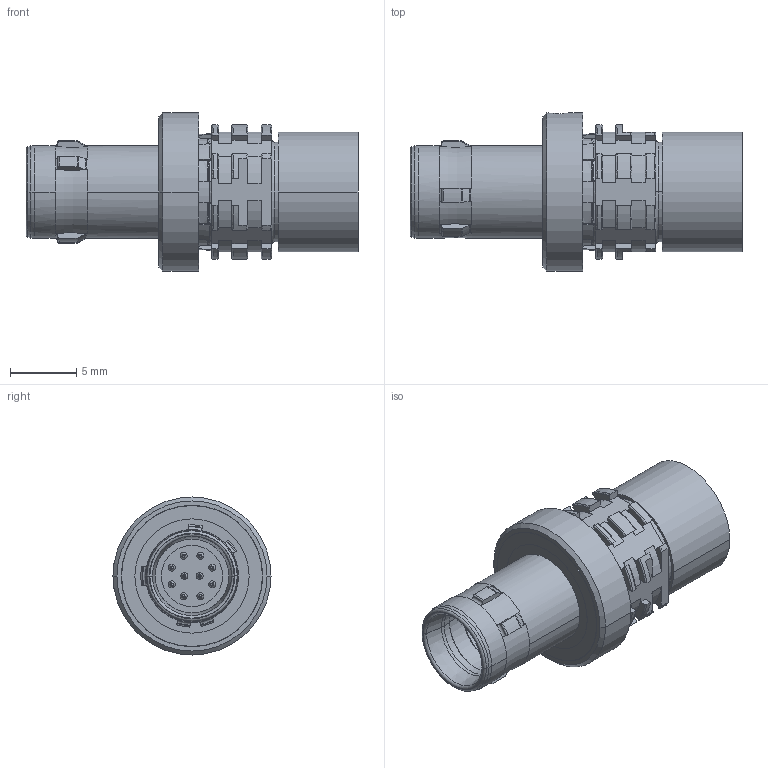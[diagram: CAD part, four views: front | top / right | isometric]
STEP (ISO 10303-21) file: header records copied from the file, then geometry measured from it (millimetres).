
FILE_DESCRIPTION((''),'2;1');
FILE_NAME('00050226_SW0001','2016-09-05T',('cmeindl'),(''),'PRO/ENGINEER BY PARAMETRIC TECHNOLOGY CORPORATION, 2014200','PRO/ENGINEER BY PARAMETRIC TECHNOLOGY CORPORATION, 2014200','');
FILE_SCHEMA(('AUTOMOTIVE_DESIGN { 1 0 10303 214 1 1 1 1 }'));
Length unit declared in the file: millimetre
Products named in the file (1): 00050226_SW0001
Bounding box: 25 x 11.9 x 11.9 mm (x, y, z)
Volume: 1006.5 mm3; surface area: 2301.6 mm2
Topology: 2 solids, 2 shells, 780 faces, 2034 edges, 1270 vertices
Faces by surface type: cylinder 275, plane 241, torus 133, cone 91, bspline 20, sphere 20
Entity records: 35725 total; most frequent: CARTESIAN_POINT 10935, DIRECTION 4065, ORIENTED_EDGE 3988, EDGE_CURVE 1994, AXIS2_PLACEMENT_3D 1620, VERTEX_POINT 1270, CIRCLE 860, EDGE_LOOP 852
